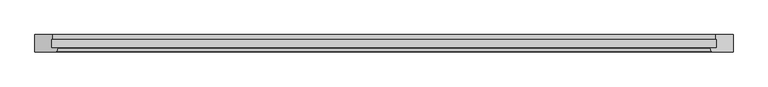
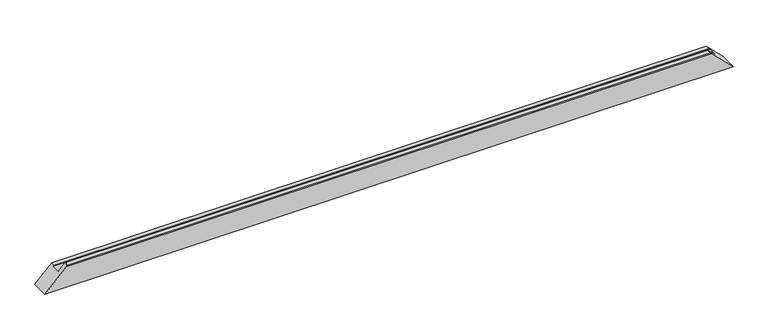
"""IFC4 building model written with IfcOpenShell, lengths in millimetres: proxy geometry, Weiku - Montante - Caixilho 02.2.01.005 : Weiku - Montante - Caixilho 02.2.01.005."""

from ifc_helpers import new_model, si_unit, frame, origin, place, context, project, spatial, ellipse_curve, source, transform, mapped, element, save
from ifc_brep_helpers import plane_surface, cylinder_surface, advanced_brep


def generic_models_d505481e(model_context):
    return source(origin(), model_context, "Body", "AdvancedBrep", [
        advanced_brep(
        [(-951.0, 12.5, 46.0), (-930.8909676, 12.5, 66.1090324), (930.8909676, 12.5, 66.1090324), (951.0, 12.5, 46.0), (-951.0, 37.8314286, 46.0), (951.0, 37.8314286, 46.0), (-948.0, 37.027581, 49.0), (948.0, 37.027581, 49.0), (-948.0, 50.0, 49.0), (948.0, 50.0, 49.0), (997.0, 50.0, 0.0), (-997.0, 50.0, 0.0), (997.0, 0.0, 0.0), (-997.0, 0.0, 0.0), (935.4997332, 0.0, 61.5002668), (-935.4997332, 0.0, 61.5002668), (-930.118227, 11.4929448, 66.881773), (-932.6019557, 2.2235429, 64.3980443), (932.6019557, 2.2235429, 64.3980443), (930.118227, 11.4929448, 66.881773)],
        [
            (0, 1),
            (1, 2),
            (2, 3),
            (3, 0),
            (4, 0),
            (3, 5),
            (5, 4),
            (6, 4),
            (5, 7),
            (7, 6),
            (8, 6),
            (7, 9),
            (9, 8),
            (10, 11),
            (11, 8),
            (9, 10),
            (10, 12),
            (12, 13),
            (13, 11),
            (12, 14),
            (14, 15),
            (15, 13),
            (16, 17),
            (17, 18),
            (18, 19),
            (19, 16),
            (15, 17, ellipse_curve(frame((-935.4997332, 3.0, 61.5002668), z_axis=(-0.7071067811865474, 0.0, 0.7071067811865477), x_axis=(-0.7071067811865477, 0.0, -0.7071067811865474)), 4.2426407, 3.0)),
            (16, 1, ellipse_curve(frame((-930.8909676, 11.7, 66.1090324), z_axis=(-0.7071067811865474, 0.0, 0.7071067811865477), x_axis=(-0.7071067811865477, 0.0, -0.7071067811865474)), 1.1313708, 0.8)),
            (2, 19, ellipse_curve(frame((930.8909676, 11.7, 66.1090324), z_axis=(0.7071067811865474, 0.0, 0.7071067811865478), x_axis=(-0.7071067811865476, 0.0, 0.7071067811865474)), 1.1313708, 0.8)),
            (18, 14, ellipse_curve(frame((935.4997332, 3.0, 61.5002668), z_axis=(0.7071067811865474, 0.0, 0.7071067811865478), x_axis=(-0.7071067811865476, 0.0, 0.7071067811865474)), 4.2426407, 3.0)),
        ],
        [
            plane_surface(frame((-997.0, 12.5, 66.1090324), z_axis=(0.0, 1.0, 0.0), x_axis=(1.0, 0.0, 0.0))),
            plane_surface(frame((-997.0, 12.5, 46.0), z_axis=(0.0, 0.0, 1.0), x_axis=(1.0, 0.0, 0.0))),
            plane_surface(frame((-997.0, 37.8314286, 46.0), z_axis=(0.0, -0.9659258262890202, -0.2588190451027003), x_axis=(1.0, 0.0, 0.0))),
            plane_surface(frame((-997.0, 37.027581, 49.0), z_axis=(0.0, 0.0, 1.0), x_axis=(1.0, 0.0, 0.0))),
            plane_surface(frame((-997.0, 50.0, 49.0), z_axis=(0.0, 1.0, 0.0), x_axis=(1.0, 0.0, 0.0))),
            plane_surface(frame((-997.0, 50.0, 0.0), z_axis=(0.0, 0.0, -1.0), x_axis=(1.0, 0.0, 0.0))),
            plane_surface(frame((-997.0, 0.0, 0.0), z_axis=(0.0, -1.0, 0.0), x_axis=(1.0, 0.0, 0.0))),
            plane_surface(frame((-997.0, 2.2235429, 64.3980443), z_axis=(0.0, -0.2588190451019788, 0.9659258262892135), x_axis=(1.0, 0.0, 0.0))),
            plane_surface(frame((-1067.0, -15.0, -70.0), z_axis=(-0.7071067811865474, 0.0, 0.7071067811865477), x_axis=(0.0, 1.0, 0.0))),
            plane_surface(frame((927.0, -15.0, 70.0), z_axis=(0.7071067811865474, 0.0, 0.7071067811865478), x_axis=(0.0, 1.0, 0.0))),
            cylinder_surface(frame((-997.0, 11.7, 66.1090324), z_axis=(-1.0, 0.0, 0.0), x_axis=(0.0, 1.0, 0.0)), 0.8),
            cylinder_surface(frame((-997.0, 3.0, 61.5002668), z_axis=(-1.0, 0.0, 0.0), x_axis=(0.0, 1.0, 0.0)), 3.0),
        ],
        [
            (0, [[1, 2, 3, 4]]),
            (1, [[5, -4, 6, 7]]),
            (2, [[8, -7, 9, 10]]),
            (3, [[11, -10, 12, 13]]),
            (4, [[14, 15, -13, 16]]),
            (5, [[-14, 17, 18, 19]]),
            (6, [[-18, 20, 21, 22]]),
            (7, [[23, 24, 25, 26]]),
            (8, [[-1, -5, -8, -11, -15, -19, -22, 27, -23, 28]]),
            (9, [[-3, 29, -25, 30, -20, -17, -16, -12, -9, -6]]),
            (10, [[-28, -26, -29, -2]]),
            (11, [[-27, -21, -30, -24]]),
        ],
    ),
    ])


if __name__ == "__main__":
    model = new_model("IFC4")
    model_context = context("Model", 3, world=origin())
    ifc_project = project(units=[si_unit("LENGTHUNIT", "METRE", prefix="MILLI")], contexts=[model_context])
    site = spatial("IfcSite", under=ifc_project)
    building = spatial("IfcBuilding", under=site)
    placement = place(None, origin())
    generic_models_shape = generic_models_d505481e(model_context)
    element("IfcBuildingElementProxy", 1, Name="Weiku - Montante - Caixilho 02.2.01.005 : Weiku - Montante - Caixilho 02.2.01.005", ObjectType="Weiku - Montante - Caixilho 02.2.01.005 : Weiku - Montante - Caixilho 02.2.01.005", at=placement, inside=building, context=model_context, shape_type="MappedRepresentation", body=[
        mapped(generic_models_shape, transform((0.0, 0.0, 0.0), x_axis=(1.0, 0.0, 0.0), y_axis=(0.0, 1.0, 0.0), z_axis=(0.0, 0.0, 1.0))),
    ])
    save(model, "model.ifc")
